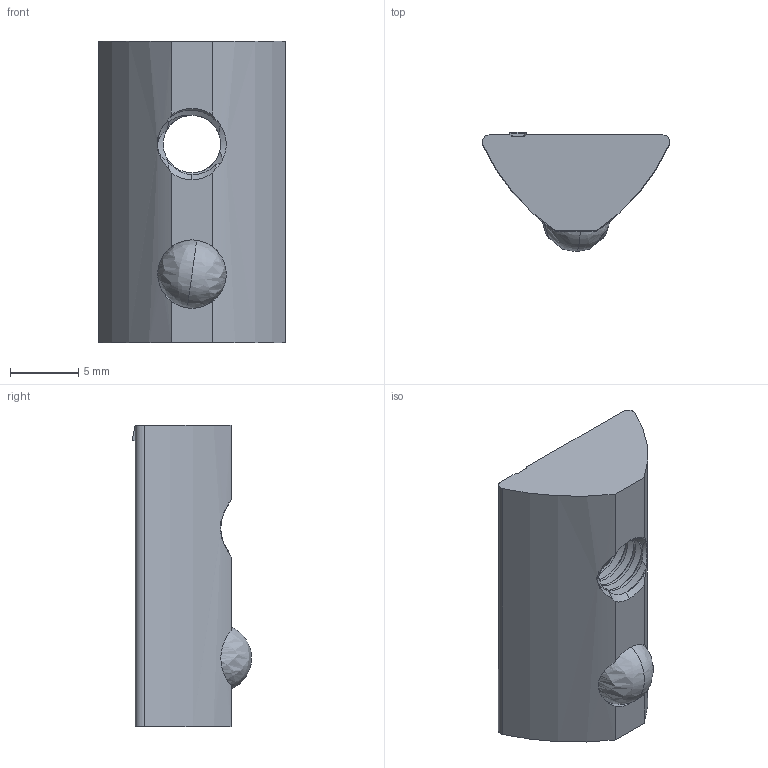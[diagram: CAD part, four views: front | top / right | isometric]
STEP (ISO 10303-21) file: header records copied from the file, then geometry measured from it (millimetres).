
FILE_DESCRIPTION (( 'STEP AP203' ), '1' );
FILE_NAME ('998087_Nutenstein 8 M5 mit Kerbe ESD (ohne Steg).step', '2022-09-16T08:49:40', ( '' ), ( '' ), 'SwSTEP 2.0', 'SolidWorks 2021', '' );
FILE_SCHEMA (( 'CONFIG_CONTROL_DESIGN' ));
Length unit declared in the file: millimetre
Products named in the file (1): 998087_Nutenstein 8 M5 mit Kerbe ESD (ohne Steg)
Bounding box: 13.7 x 8.7 x 22 mm (x, y, z)
Volume: 1326.6 mm3; surface area: 1177.7 mm2
Topology: 2 solids, 2 shells, 72 faces, 199 edges, 126 vertices
Faces by surface type: cylinder 23, plane 21, bspline 20, cone 8
Entity records: 6798 total; most frequent: CARTESIAN_POINT 5201, ORIENTED_EDGE 390, DIRECTION 225, EDGE_CURVE 195, VERTEX_POINT 126, AXIS2_PLACEMENT_3D 80, EDGE_LOOP 73, FACE_OUTER_BOUND 72
